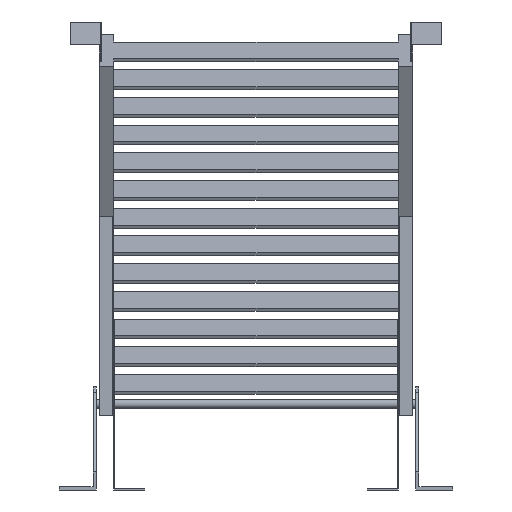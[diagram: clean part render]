
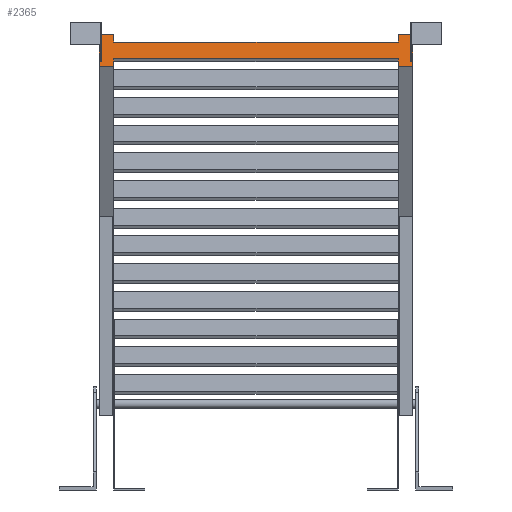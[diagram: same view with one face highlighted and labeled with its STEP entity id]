
A CAD part, front view. The second image highlights one B-rep face of the part: STEP entity #2365.
In plain terms, the highlighted planar face has unit normal (0, -0.985, 0.174).
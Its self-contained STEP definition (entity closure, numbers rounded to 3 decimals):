
#721=DIRECTION('',(1.,0.,0.));
#722=VECTOR('',#721,500.);
#723=CARTESIAN_POINT('',(-250.,-3212.48,756.592));
#724=LINE('',#723,#722);
#729=DIRECTION('',(0.,0.174,0.985));
#730=VECTOR('',#729,13.5);
#731=CARTESIAN_POINT('',(-250.,-3207.271,786.137));
#732=LINE('',#731,#730);
#733=DIRECTION('',(0.,-0.174,-0.985));
#734=VECTOR('',#733,13.5);
#735=CARTESIAN_POINT('',(250.,-3204.927,799.431));
#736=LINE('',#735,#734);
#737=DIRECTION('',(-1.,0.,0.));
#738=VECTOR('',#737,25.);
#739=CARTESIAN_POINT('',(275.,-3204.927,799.431));
#740=LINE('',#739,#738);
#741=DIRECTION('',(0.,0.174,0.985));
#742=VECTOR('',#741,57.);
#743=CARTESIAN_POINT('',(275.,-3214.825,743.297));
#744=LINE('',#743,#742);
#745=DIRECTION('',(1.,0.,0.));
#746=VECTOR('',#745,25.);
#747=CARTESIAN_POINT('',(250.,-3214.825,743.297));
#748=LINE('',#747,#746);
#749=DIRECTION('',(0.,-0.174,-0.985));
#750=VECTOR('',#749,13.5);
#751=CARTESIAN_POINT('',(250.,-3212.48,756.592));
#752=LINE('',#751,#750);
#753=DIRECTION('',(0.,0.174,0.985));
#754=VECTOR('',#753,13.5);
#755=CARTESIAN_POINT('',(-250.,-3214.825,743.297));
#756=LINE('',#755,#754);
#757=DIRECTION('',(1.,0.,0.));
#758=VECTOR('',#757,25.);
#759=CARTESIAN_POINT('',(-275.,-3214.825,743.297));
#760=LINE('',#759,#758);
#761=DIRECTION('',(0.,-0.174,-0.985));
#762=VECTOR('',#761,57.);
#763=CARTESIAN_POINT('',(-275.,-3204.927,799.431));
#764=LINE('',#763,#762);
#765=DIRECTION('',(-1.,0.,0.));
#766=VECTOR('',#765,25.);
#767=CARTESIAN_POINT('',(-250.,-3204.927,799.431));
#768=LINE('',#767,#766);
#769=DIRECTION('',(1.,0.,0.));
#770=VECTOR('',#769,2.);
#771=CARTESIAN_POINT('',(-273.,-3213.349,751.668));
#772=LINE('',#771,#770);
#773=DIRECTION('',(0.,0.174,0.985));
#774=VECTOR('',#773,40.);
#775=CARTESIAN_POINT('',(-271.,-3213.349,751.668));
#776=LINE('',#775,#774);
#777=DIRECTION('',(1.,0.,0.));
#778=VECTOR('',#777,2.);
#779=CARTESIAN_POINT('',(-273.,-3206.403,791.061));
#780=LINE('',#779,#778);
#781=DIRECTION('',(0.,0.174,0.985));
#782=VECTOR('',#781,40.);
#783=CARTESIAN_POINT('',(-273.,-3213.349,751.668));
#784=LINE('',#783,#782);
#785=DIRECTION('',(1.,0.,0.));
#786=VECTOR('',#785,2.);
#787=CARTESIAN_POINT('',(271.,-3213.349,751.668));
#788=LINE('',#787,#786);
#789=DIRECTION('',(0.,0.174,0.985));
#790=VECTOR('',#789,40.);
#791=CARTESIAN_POINT('',(273.,-3213.349,751.668));
#792=LINE('',#791,#790);
#793=DIRECTION('',(1.,0.,0.));
#794=VECTOR('',#793,2.);
#795=CARTESIAN_POINT('',(271.,-3206.403,791.061));
#796=LINE('',#795,#794);
#797=DIRECTION('',(0.,0.174,0.985));
#798=VECTOR('',#797,40.);
#799=CARTESIAN_POINT('',(271.,-3213.349,751.668));
#800=LINE('',#799,#798);
#805=DIRECTION('',(1.,0.,0.));
#806=VECTOR('',#805,500.);
#807=CARTESIAN_POINT('',(-250.,-3207.271,786.137));
#808=LINE('',#807,#806);
#1089=CARTESIAN_POINT('',(-250.,-3204.927,799.431));
#1090=CARTESIAN_POINT('',(-275.,-3204.927,799.431));
#1091=VERTEX_POINT('',#1089);
#1092=VERTEX_POINT('',#1090);
#1093=CARTESIAN_POINT('',(-275.,-3214.825,743.297));
#1094=CARTESIAN_POINT('',(-250.,-3214.825,743.297));
#1095=VERTEX_POINT('',#1093);
#1096=VERTEX_POINT('',#1094);
#1097=CARTESIAN_POINT('',(275.,-3214.825,743.297));
#1098=CARTESIAN_POINT('',(275.,-3204.927,799.431));
#1099=VERTEX_POINT('',#1097);
#1100=VERTEX_POINT('',#1098);
#1101=CARTESIAN_POINT('',(250.,-3214.825,743.297));
#1102=VERTEX_POINT('',#1101);
#1103=CARTESIAN_POINT('',(250.,-3204.927,799.431));
#1104=VERTEX_POINT('',#1103);
#1297=CARTESIAN_POINT('',(-250.,-3212.48,756.592));
#1299=VERTEX_POINT('',#1297);
#1301=CARTESIAN_POINT('',(-250.,-3207.271,786.137));
#1303=VERTEX_POINT('',#1301);
#1305=CARTESIAN_POINT('',(250.,-3212.48,756.592));
#1307=VERTEX_POINT('',#1305);
#1309=CARTESIAN_POINT('',(250.,-3207.271,786.137));
#1311=VERTEX_POINT('',#1309);
#1361=CARTESIAN_POINT('',(-273.,-3213.349,751.668));
#1362=CARTESIAN_POINT('',(-271.,-3213.349,751.668));
#1363=VERTEX_POINT('',#1361);
#1364=VERTEX_POINT('',#1362);
#1365=CARTESIAN_POINT('',(-273.,-3206.403,791.061));
#1366=CARTESIAN_POINT('',(-271.,-3206.403,791.061));
#1367=VERTEX_POINT('',#1365);
#1368=VERTEX_POINT('',#1366);
#1385=CARTESIAN_POINT('',(271.,-3213.349,751.668));
#1386=CARTESIAN_POINT('',(273.,-3213.349,751.668));
#1387=VERTEX_POINT('',#1385);
#1388=VERTEX_POINT('',#1386);
#1389=CARTESIAN_POINT('',(271.,-3206.403,791.061));
#1390=CARTESIAN_POINT('',(273.,-3206.403,791.061));
#1391=VERTEX_POINT('',#1389);
#1392=VERTEX_POINT('',#1390);
#2319=CARTESIAN_POINT('',(0.,-3244.997,572.181));
#2320=DIRECTION('',(0.,0.985,-0.174));
#2321=DIRECTION('',(1.,0.,0.));
#2322=AXIS2_PLACEMENT_3D('',#2319,#2320,#2321);
#2323=PLANE('',#2322);
#2324=ORIENTED_EDGE('',*,*,#1420,.F.);
#2326=ORIENTED_EDGE('',*,*,#2325,.T.);
#2327=ORIENTED_EDGE('',*,*,#1623,.F.);
#2329=ORIENTED_EDGE('',*,*,#2328,.F.);
#2331=ORIENTED_EDGE('',*,*,#2330,.F.);
#2333=ORIENTED_EDGE('',*,*,#2332,.F.);
#2334=ORIENTED_EDGE('',*,*,#1615,.F.);
#2335=ORIENTED_EDGE('',*,*,#2311,.F.);
#2336=ORIENTED_EDGE('',*,*,#1428,.F.);
#2338=ORIENTED_EDGE('',*,*,#2337,.F.);
#2340=ORIENTED_EDGE('',*,*,#2339,.F.);
#2342=ORIENTED_EDGE('',*,*,#2341,.F.);
#2343=EDGE_LOOP('',(#2324,#2326,#2327,#2329,#2331,#2333,#2334,#2335,#2336,#2338,
#2340,#2342));
#2344=FACE_OUTER_BOUND('',#2343,.F.);
#2346=ORIENTED_EDGE('',*,*,#2345,.T.);
#2348=ORIENTED_EDGE('',*,*,#2347,.T.);
#2350=ORIENTED_EDGE('',*,*,#2349,.F.);
#2352=ORIENTED_EDGE('',*,*,#2351,.F.);
#2353=EDGE_LOOP('',(#2346,#2348,#2350,#2352));
#2354=FACE_BOUND('',#2353,.F.);
#2356=ORIENTED_EDGE('',*,*,#2355,.T.);
#2358=ORIENTED_EDGE('',*,*,#2357,.T.);
#2360=ORIENTED_EDGE('',*,*,#2359,.F.);
#2362=ORIENTED_EDGE('',*,*,#2361,.F.);
#2363=EDGE_LOOP('',(#2356,#2358,#2360,#2362));
#2364=FACE_BOUND('',#2363,.F.);
#1420=EDGE_CURVE('',#1303,#1091,#732,.T.);
#1428=EDGE_CURVE('',#1096,#1299,#756,.T.);
#1615=EDGE_CURVE('',#1307,#1102,#752,.T.);
#1623=EDGE_CURVE('',#1104,#1311,#736,.T.);
#2311=EDGE_CURVE('',#1299,#1307,#724,.T.);
#2325=EDGE_CURVE('',#1303,#1311,#808,.T.);
#2328=EDGE_CURVE('',#1100,#1104,#740,.T.);
#2330=EDGE_CURVE('',#1099,#1100,#744,.T.);
#2332=EDGE_CURVE('',#1102,#1099,#748,.T.);
#2337=EDGE_CURVE('',#1095,#1096,#760,.T.);
#2339=EDGE_CURVE('',#1092,#1095,#764,.T.);
#2341=EDGE_CURVE('',#1091,#1092,#768,.T.);
#2345=EDGE_CURVE('',#1363,#1364,#772,.T.);
#2347=EDGE_CURVE('',#1364,#1368,#776,.T.);
#2349=EDGE_CURVE('',#1367,#1368,#780,.T.);
#2351=EDGE_CURVE('',#1363,#1367,#784,.T.);
#2355=EDGE_CURVE('',#1387,#1388,#788,.T.);
#2357=EDGE_CURVE('',#1388,#1392,#792,.T.);
#2359=EDGE_CURVE('',#1391,#1392,#796,.T.);
#2361=EDGE_CURVE('',#1387,#1391,#800,.T.);
#2365=ADVANCED_FACE('',(#2344,#2354,#2364),#2323,.F.);
